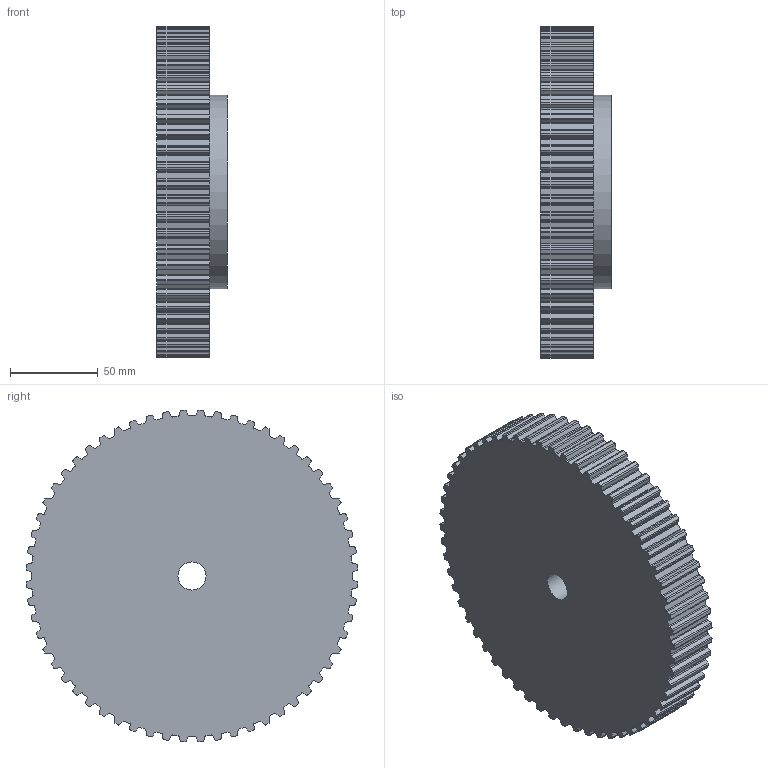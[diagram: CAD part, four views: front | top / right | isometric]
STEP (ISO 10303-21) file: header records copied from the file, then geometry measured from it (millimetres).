
FILE_DESCRIPTION( ( 'STEP AP203' ), '1' );
FILE_NAME( 'C:/Users/Stangenbergd/Documents/CAD_Step/1/16436000.stp', '2020-09-13T08:39:23', ( 'License CC BY-ND 4.0' ), ( 'CADENAS' ), ' ', 'PARTsolutions', ' ' );
FILE_SCHEMA( ( 'CONFIG_CONTROL_DESIGN' ) );
Length unit declared in the file: millimetre
Products named in the file (1): _16436000
Bounding box: 40 x 188.97 x 188.97 mm (x, y, z)
Volume: 897030.1 mm3; surface area: 84360.1 mm2
Topology: 1 solids, 1 shells, 485 faces, 1446 edges, 964 vertices
Faces by surface type: cylinder 302, plane 183
Full cylindrical faces by diameter (mm): 16 x1, 110 x1
Entity records: 16582 total; most frequent: DIRECTION 3020, CARTESIAN_POINT 2894, ORIENTED_EDGE 2888, EDGE_CURVE 1444, AXIS2_PLACEMENT_3D 1090, VERTEX_POINT 964, LINE 840, VECTOR 840
